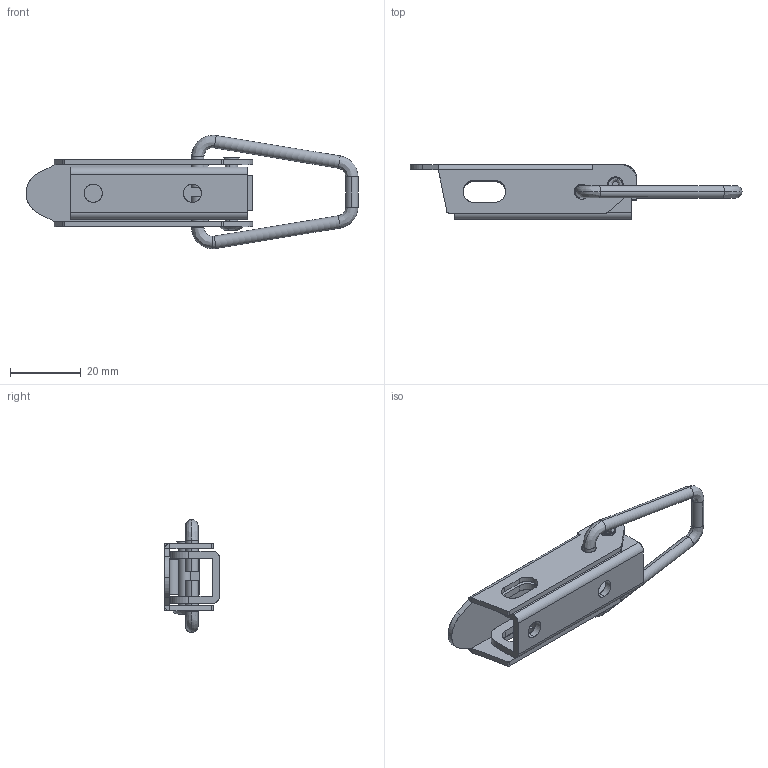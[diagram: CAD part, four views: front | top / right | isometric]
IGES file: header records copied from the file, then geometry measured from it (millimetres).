
Start section: SolidWorks IGES FILE using analytic representation for surfaces
Global section: file name: C:\Documents and Settings\brechard\Bureau\GO 563\GO 563.IGS; native system: SolidWorks 2001Plus by SolidWorks Corporation; preprocessor: Version 5.3; author: brechard; date: 050126.100749; units: millimetre
Bounding box: 93.75 x 15.5 x 32 mm (x, y, z)
Surface area: 10077.9 mm2 (no closed solid volume)
Topology: 0 solids, 0 shells, 140 faces, 2094 edges, 2094 vertices
Faces by surface type: bspline 74, revolution 66
